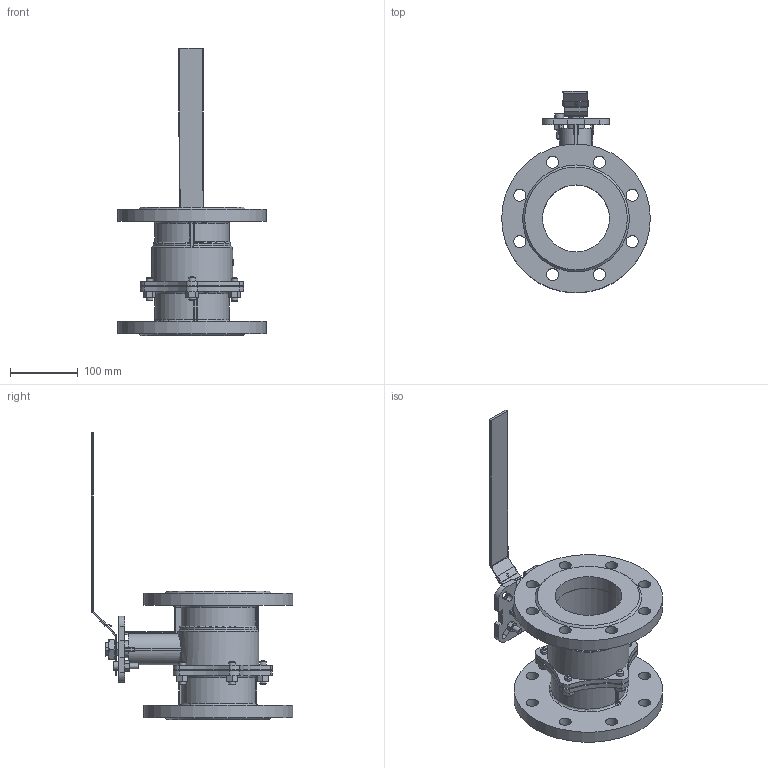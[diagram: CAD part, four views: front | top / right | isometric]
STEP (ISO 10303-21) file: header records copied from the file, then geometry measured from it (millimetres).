
FILE_DESCRIPTION(('STEP AP242'), '1');
FILE_NAME('BV3232P(2pc)-FP-F-ISO-H Êðàí øàðîâîé DN.ru Äó100 Ðó16', '', ('UNSPECIFIED'), ('UNSPECIFIED'), 'C3D Converter', 'C3D Toolkit', '');
FILE_SCHEMA(('AP242_MANAGED_MODEL_BASED_3D_ENGINEERING_MIM_LF { 1 0 10303 442 1 1 4 }'));
Length unit declared in the file: millimetre
Products named in the file (1): BV3232P(2pc)-FP-F-ISO-H
Bounding box: 220 x 298 x 424.88 mm (x, y, z)
Volume: 1729543.7 mm3; surface area: 379044.2 mm2
Topology: 1 solids, 1 shells, 735 faces, 1840 edges, 1142 vertices
Faces by surface type: plane 363, cylinder 180, cone 106, bspline 56, torus 28, sphere 2
Full cylindrical faces by diameter (mm): 1 x1, 5 x1, 8 x2, 10 x15, 13 x1, 16 x1, 17.294 x1, 18 x16, 25 x1, 30 x1, 40 x2, 99 x2, 100 x3, 108 x1, 115 x1, 120 x1, 220 x2
Entity records: 38035 total; most frequent: CARTESIAN_POINT 18417, ORIENTED_EDGE 3488, DIRECTION 3194, EDGE_CURVE 1744, AXIS2_PLACEMENT_3D 1175, VERTEX_POINT 1131, EDGE_LOOP 923, LINE 844
